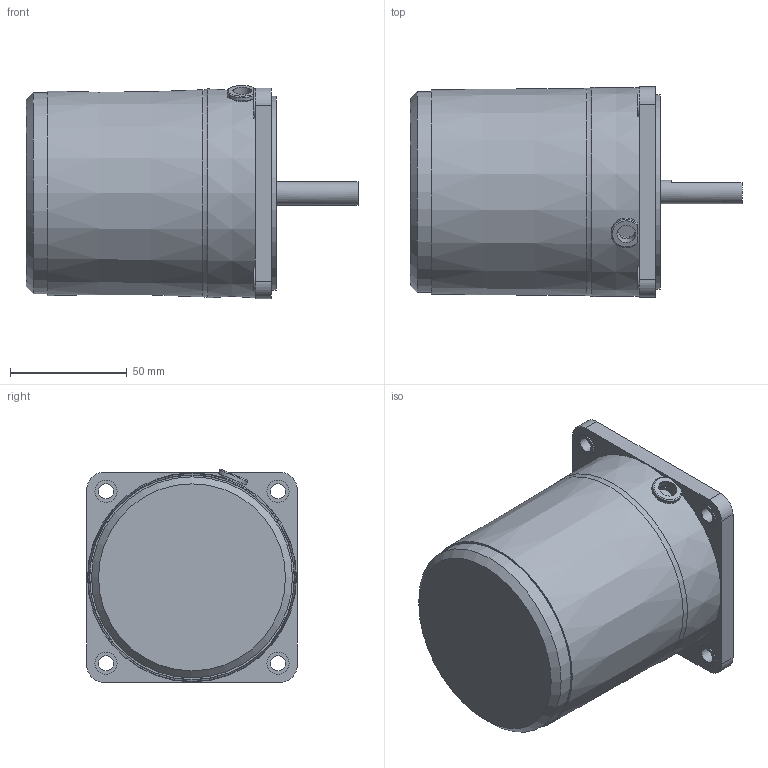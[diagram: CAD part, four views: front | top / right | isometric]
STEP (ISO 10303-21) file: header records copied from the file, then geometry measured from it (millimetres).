
FILE_DESCRIPTION((''),'2;1');
FILE_NAME('D:\STP파일\40W MOTOR\S9I40D.stp','2013-05-20T16:48:19',('leebh'),(''),'Autodesk Inventor 2011','Autodesk Inventor 2011','');
FILE_SCHEMA(('AUTOMOTIVE_DESIGN { 1 0 10303 214 1 1 1 1 }'));
Length unit declared in the file: millimetre
Products named in the file (1): 부품3
Bounding box: 142 x 90 x 91.17 mm (x, y, z)
Volume: 648408.4 mm3; surface area: 49620 mm2
Topology: 1 solids, 2 shells, 80 faces, 189 edges, 125 vertices
Faces by surface type: plane 45, cylinder 30, cone 3, torus 2
Full cylindrical faces by diameter (mm): 6.5 x4, 8 x1, 9.5 x4, 10 x2, 40 x1, 83 x1, 86 x1
Entity records: 2270 total; most frequent: CARTESIAN_POINT 423, DIRECTION 392, ORIENTED_EDGE 330, EDGE_CURVE 165, AXIS2_PLACEMENT_3D 151, EDGE_LOOP 121, VERTEX_POINT 120, VECTOR 90
